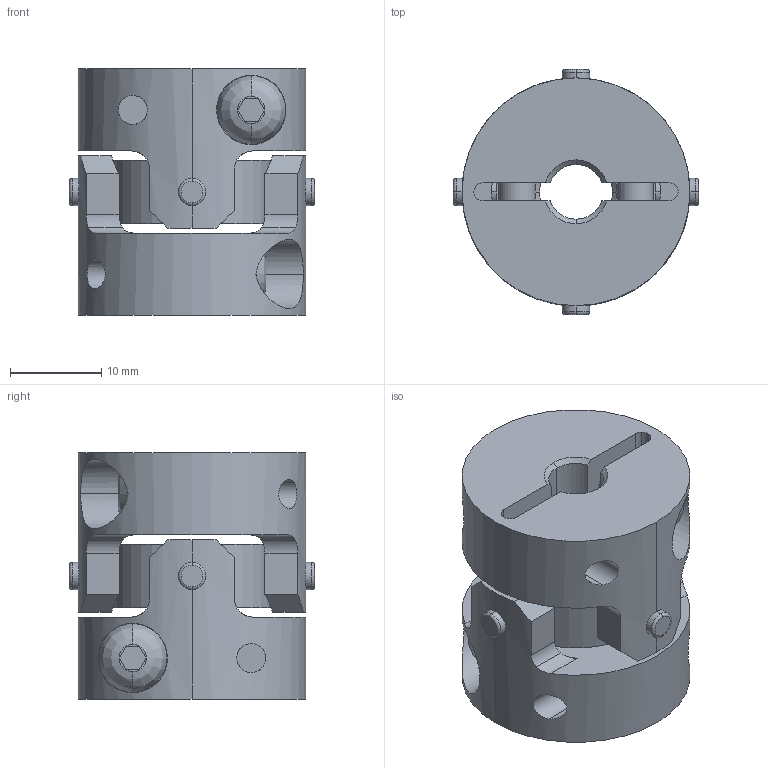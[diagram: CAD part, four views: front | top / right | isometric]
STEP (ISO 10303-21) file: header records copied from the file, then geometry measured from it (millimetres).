
FILE_DESCRIPTION((''),'2;1');
FILE_NAME('UA-25C-6×8.stp','2013-05-16T09:17:50',(''),(''),'AutoCAD STEP 2000i','AutoCAD 2000i',', , ');
FILE_SCHEMA(('CONFIG_CONTROL_DESIGN'));
Length unit declared in the file: millimetre
Products named in the file (6): UA-25C-5×5; 忣兜1; UA-2502-D05-1; BTN-M4; UA-2502-D05; UA25-SEN
Assembly tree (6 placements, depth 3):
  UA-25C-5×5
    忣兜1
    UA-2502-D05-1
      BTN-M4
    UA-2502-D05
      BTN-M4
    UA25-SEN
Bounding box: 26.89 x 26.89 x 27 mm (x, y, z)
Volume: 9206 mm3; surface area: 6476.6 mm2
Topology: 1 solids, 1 shells, 206 faces, 554 edges, 364 vertices
Faces by surface type: cylinder 96, plane 78, cone 16, bspline 8, torus 8
Entity records: 8291 total; most frequent: CARTESIAN_POINT 2975, ORIENTED_EDGE 1108, DIRECTION 1064, EDGE_CURVE 554, AXIS2_PLACEMENT_3D 409, VERTEX_POINT 364, VECTOR 246, LINE 246
